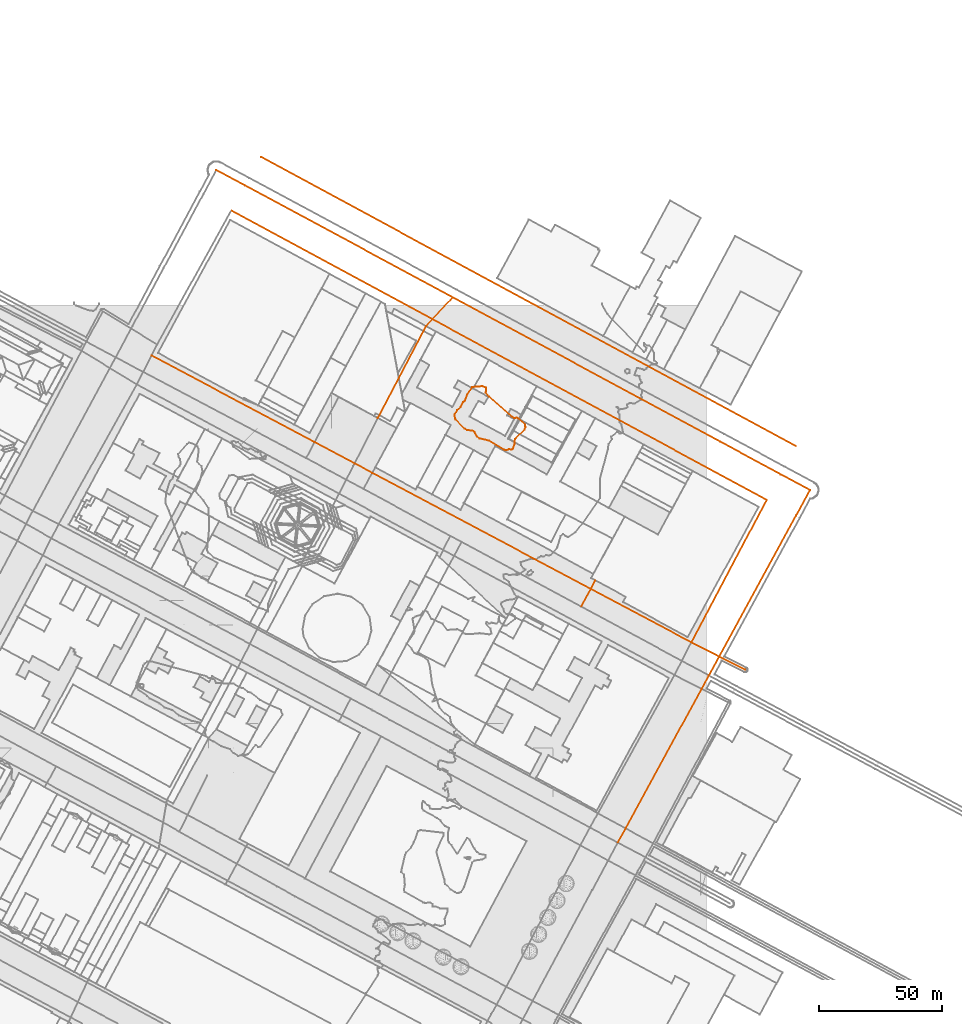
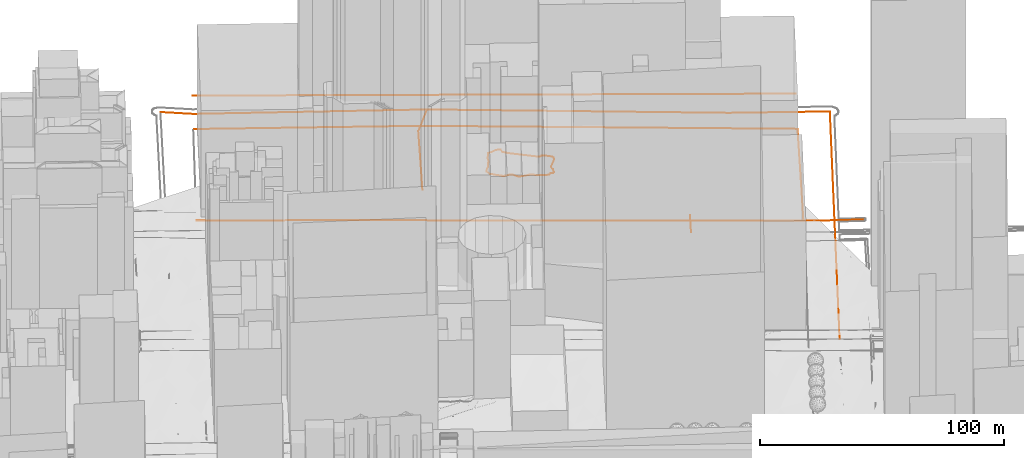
# Not in any storey, part 68 of 76: 11 proxies.
"""IFC2X3 model written with IfcOpenShell, lengths in metres."""

from ifc_helpers import new_model, entity, si_unit, frame, origin_with_axes, place, context, subcontext, project, element, save


model = new_model("IFC2X3")

# Units and contexts
model_context = context("Model", 3, precision=1e-05, world=origin_with_axes())
body_context = subcontext(model_context, "Body", "Model", "MODEL_VIEW")
ifc_project = project(units=[si_unit("AREAUNIT", "SQUARE_METRE"), si_unit("LENGTHUNIT", "METRE")], contexts=[model_context])

# Proxies
proxy_1_placement = place(None, frame((258.4655017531, 370.9871293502, 22.6374921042), z_axis=(0.0, 0.0, 1.0), x_axis=(1.0, 0.0, 0.0)))
element("IfcBuildingElementProxy", 1, at=proxy_1_placement, Name="Route 3", ObjectType="NOTDEFINED", context=body_context, shape_type="GeometricCurveSet", body=[
    entity("IfcGeometricCurveSet", [entity("IfcPolyline", [entity("IfcCartesianPoint", [10.8372056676, 11.7279777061, -0.1635695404]), entity("IfcCartesianPoint", [2.592595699, 2.8057343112, -0.0503085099]), entity("IfcCartesianPoint", [0.0, 0.0, 0.0])])]),
])
proxy_2_placement = place(None, frame((238.8685951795, 333.6553643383, 22.855919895), z_axis=(0.0, 0.0, 1.0), x_axis=(1.0, 0.0, 0.0)))
element("IfcBuildingElementProxy", 2, at=proxy_2_placement, Name="Route 4", ObjectType="NOTDEFINED", context=body_context, shape_type="GeometricCurveSet", body=[
    entity("IfcGeometricCurveSet", [entity("IfcPolyline", [entity("IfcCartesianPoint", [19.5969065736, 37.3317650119, -0.2184277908]), entity("IfcCartesianPoint", [0.0, 0.0, 0.0])])]),
])
proxy_3_placement = place(None, frame((321.5409650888, 257.0016890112, 19.0469377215), z_axis=(0.0, 0.0, 1.0), x_axis=(1.0, 0.0, 0.0)))
element("IfcBuildingElementProxy", 3, at=proxy_3_placement, Name="Route 16", ObjectType="NOTDEFINED", context=body_context, shape_type="GeometricCurveSet", body=[
    entity("IfcGeometricCurveSet", [entity("IfcPolyline", [entity("IfcCartesianPoint", [0.0, 0.0, 0.0]), entity("IfcCartesianPoint", [3.8413572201, 7.2056906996, 0.0365889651]), entity("IfcCartesianPoint", [5.6917771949, 10.6800427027, 0.0703566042])])]),
])
proxy_4_placement = place(None, frame((191.4015903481, 439.7627027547, 22.0768114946), z_axis=(0.0, 0.0, 1.0), x_axis=(1.0, 0.0, 0.0)))
element("IfcBuildingElementProxy", 4, at=proxy_4_placement, Name="Route 19", ObjectType="NOTDEFINED", context=body_context, shape_type="GeometricCurveSet", body=[
    entity("IfcGeometricCurveSet", [entity("IfcPolyline", [entity("IfcCartesianPoint", [217.4069610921, -117.5843163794, -3.8241281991]), entity("IfcCartesianPoint", [0.0, 0.0, 0.0])])]),
])
proxy_5_placement = place(None, frame((366.280947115, 242.4792324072, 18.0250641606), z_axis=(0.0, 0.0, 1.0), x_axis=(1.0, 0.0, 0.0)))
element("IfcBuildingElementProxy", 5, at=proxy_5_placement, Name="Route 20", ObjectType="NOTDEFINED", context=body_context, shape_type="GeometricCurveSet", body=[
    entity("IfcGeometricCurveSet", [entity("IfcPolyline", [entity("IfcCartesianPoint", [0.0, 0.0, 0.0]), entity("IfcCartesianPoint", [30.6262347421, 57.8888119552, 0.0389345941])])]),
])
proxy_6_placement = place(None, frame((179.2712645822, 418.0055676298, 22.8208844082), z_axis=(0.0, 0.0, 1.0), x_axis=(1.0, 0.0, 0.0)))
element("IfcBuildingElementProxy", 6, at=proxy_6_placement, Name="Route 21", ObjectType="NOTDEFINED", context=body_context, shape_type="GeometricCurveSet", body=[
    entity("IfcGeometricCurveSet", [entity("IfcPolyline", [entity("IfcCartesianPoint", [0.0, 0.0, 0.0]), entity("IfcCartesianPoint", [81.78683287, -44.2127039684, -0.2337008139]), entity("IfcCartesianPoint", [217.635917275, -117.6375232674, -4.7568856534])])]),
])
proxy_7_placement = place(None, frame((366.280947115, 242.4792324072, 18.0250641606), z_axis=(0.0, 0.0, 1.0), x_axis=(1.0, 0.0, 0.0)))
element("IfcBuildingElementProxy", 7, at=proxy_7_placement, Name="Route 23", ObjectType="NOTDEFINED", context=body_context, shape_type="GeometricCurveSet", body=[
    entity("IfcGeometricCurveSet", [entity("IfcPolyline", [entity("IfcCartesianPoint", [0.0, 0.0, 0.0]), entity("IfcCartesianPoint", [11.328184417, -5.7744166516, -0.2701191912]), entity("IfcCartesianPoint", [21.8243194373, -11.136626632, -0.3050613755])])]),
])
proxy_8_placement = place(None, frame((336.3839471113, 161.0733675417, 18.4356480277), z_axis=(0.0, 0.0, 1.0), x_axis=(1.0, 0.0, 0.0)))
element("IfcBuildingElementProxy", 8, at=proxy_8_placement, Name="Route 31", ObjectType="NOTDEFINED", context=body_context, shape_type="GeometricCurveSet", body=[
    entity("IfcGeometricCurveSet", [entity("IfcPolyline", [entity("IfcCartesianPoint", [0.0, 0.0, 0.0]), entity("IfcCartesianPoint", [3.1489519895, 5.7765427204, -0.0859678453]), entity("IfcCartesianPoint", [34.0512175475, 62.4804967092, -0.5311086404]), entity("IfcCartesianPoint", [37.026748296, 67.9219674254, -0.5425779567]), entity("IfcCartesianPoint", [41.2251844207, 75.6314482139, -0.6807030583]), entity("IfcCartesianPoint", [72.4163071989, 132.8496545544, -0.4193810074]), entity("IfcCartesianPoint", [78.102336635, 143.285452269, -0.3038014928])])]),
])
proxy_9_placement = place(None, frame((146.9088872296, 359.0538889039, 24.2267984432), z_axis=(0.0, 0.0, 1.0), x_axis=(1.0, 0.0, 0.0)))
element("IfcBuildingElementProxy", 9, at=proxy_9_placement, Name="Route 75", ObjectType="NOTDEFINED", context=body_context, shape_type="GeometricCurveSet", body=[
    entity("IfcGeometricCurveSet", [entity("IfcPolyline", [entity("IfcCartesianPoint", [219.3720598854, -116.5746564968, -6.2017342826]), entity("IfcCartesianPoint", [178.4734350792, -94.8465091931, -5.1432717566]), entity("IfcCartesianPoint", [89.7033202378, -47.6737021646, -2.5295176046]), entity("IfcCartesianPoint", [82.5004248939, -43.8383942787, -2.2163397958]), entity("IfcCartesianPoint", [66.2686496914, -35.2119959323, -1.6929455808]), entity("IfcCartesianPoint", [0.0, 0.0, 0.0])])]),
])
proxy_10_placement = place(None, frame((173.2388175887, 434.4444962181, 23.4416429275), z_axis=(0.0, 0.0, 1.0), x_axis=(1.0, 0.0, 0.0)))
element("IfcBuildingElementProxy", 10, at=proxy_10_placement, Name="Route 76", ObjectType="NOTDEFINED", context=body_context, shape_type="GeometricCurveSet", body=[
    entity("IfcGeometricCurveSet", [entity("IfcPolyline", [entity("IfcCartesianPoint", [241.2474661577, -130.0856764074, -5.3097963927]), entity("IfcCartesianPoint", [229.3546636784, -123.6628648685, -5.2241039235]), entity("IfcCartesianPoint", [204.6943464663, -110.3610833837, -5.1295649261]), entity("IfcCartesianPoint", [96.0638898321, -51.7293891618, -0.9677203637]), entity("IfcCartesianPoint", [11.6967282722, -6.2922227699, -1.1985154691]), entity("IfcCartesianPoint", [0.0, 0.0, 0.0])])]),
])
proxy_11_placement = place(None, frame((270.0098232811, 335.0447113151, 20.0), z_axis=(0.0, 0.0, 1.0), x_axis=(1.0, 0.0, 0.0)))
element("IfcBuildingElementProxy", 11, at=proxy_11_placement, Name="Contour 20.0 m", ObjectType="NOTDEFINED", context=body_context, shape_type="GeometricCurveSet", body=[
    entity("IfcGeometricCurveSet", [entity("IfcPolyline", [entity("IfcCartesianPoint", [23.1816794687, -14.2853681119, 0.0]), entity("IfcCartesianPoint", [23.6816079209, -14.0, 0.0]), entity("IfcCartesianPoint", [24.4317271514, -12.0, 0.0]), entity("IfcCartesianPoint", [24.581999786, -10.0, 0.0]), entity("IfcCartesianPoint", [28.4543909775, -6.0, 0.0]), entity("IfcCartesianPoint", [28.8483779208, -5.0, 0.0]), entity("IfcCartesianPoint", [28.6818066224, -4.0, 0.0]), entity("IfcCartesianPoint", [26.1816794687, -1.666486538, 0.0]), entity("IfcCartesianPoint", [25.1816794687, -1.249910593, 0.0]), entity("IfcCartesianPoint", [24.1816794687, -1.3998245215, 0.0]), entity("IfcCartesianPoint", [23.1816794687, -0.749755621, 0.0]), entity("IfcCartesianPoint", [14.1816794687, 7.250244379, 0.0]), entity("IfcCartesianPoint", [12.7651863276, 9.0, 0.0]), entity("IfcCartesianPoint", [12.909042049, 11.0, 0.0]), entity("IfcCartesianPoint", [11.1816794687, 11.5600732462, 0.0]), entity("IfcCartesianPoint", [7.1816794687, 11.2221857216, 0.0]), entity("IfcCartesianPoint", [5.1816794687, 8.1427539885, 0.0]), entity("IfcCartesianPoint", [4.1816794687, 5.5000190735, 0.0]), entity("IfcCartesianPoint", [3.4674910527, 5.0, 0.0]), entity("IfcCartesianPoint", [2.4316874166, 3.0, 0.0]), entity("IfcCartesianPoint", [1.1816794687, 1.8570805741, 0.0]), entity("IfcCartesianPoint", [0.0, 0.0, 0.0]), entity("IfcCartesianPoint", [0.4126857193, -2.0, 0.0]), entity("IfcCartesianPoint", [4.1816794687, -5.7671849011, 0.0]), entity("IfcCartesianPoint", [5.1816794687, -6.2818577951, 0.0]), entity("IfcCartesianPoint", [7.1816794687, -6.4799033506, 0.0]), entity("IfcCartesianPoint", [8.2283831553, -7.0, 0.0]), entity("IfcCartesianPoint", [9.1508636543, -9.0, 0.0]), entity("IfcCartesianPoint", [10.1816794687, -9.6718954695, 0.0]), entity("IfcCartesianPoint", [14.1816794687, -10.6201079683, 0.0]), entity("IfcCartesianPoint", [20.1816794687, -14.2818809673, 0.0]), entity("IfcCartesianPoint", [21.1816794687, -14.4221340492, 0.0]), entity("IfcCartesianPoint", [22.1816794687, -14.0344380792, 0.0]), entity("IfcCartesianPoint", [23.1816794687, -14.2853681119, 0.0])])]),
])

save(model, "model.ifc")
